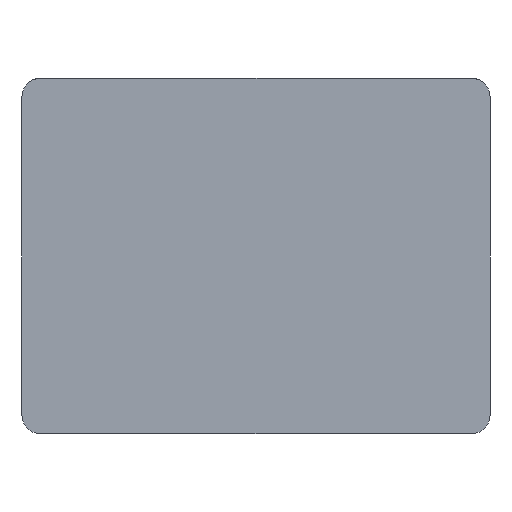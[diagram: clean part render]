
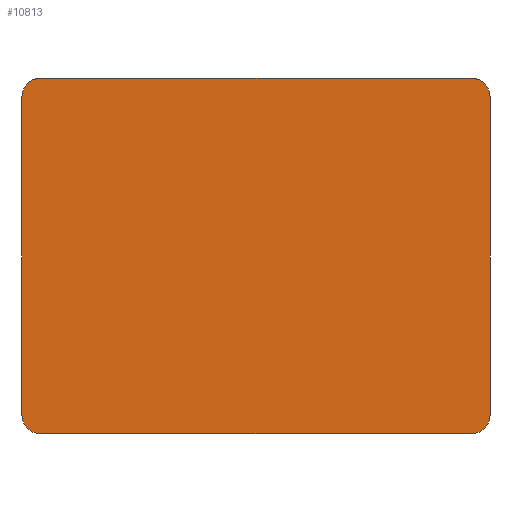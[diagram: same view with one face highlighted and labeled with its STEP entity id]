
A CAD part, left-side view. The second image highlights one B-rep face of the part: STEP entity #10813.
In plain terms, the highlighted planar face has unit normal (-1, 0, 0).
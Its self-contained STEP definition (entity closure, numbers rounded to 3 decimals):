
#1401=PLANE('',#11127);
#1968=FACE_OUTER_BOUND('',#2606,.T.);
#2606=EDGE_LOOP('',(#10013,#10014,#10015,#10016,#10017,#10018,#10019,#10020));
#3397=LINE('',#21919,#4182);
#3404=LINE('',#21961,#4189);
#3415=LINE('',#22003,#4200);
#3418=LINE('',#22012,#4203);
#4182=VECTOR('',#12333,10.);
#4189=VECTOR('',#12386,10.);
#4200=VECTOR('',#12437,10.);
#4203=VECTOR('',#12446,10.);
#4275=CIRCLE('',#11125,5.);
#4276=CIRCLE('',#11128,5.);
#4277=CIRCLE('',#11129,5.);
#4278=CIRCLE('',#11130,5.);
#5318=VERTEX_POINT('',#21913);
#5320=VERTEX_POINT('',#21917);
#5331=VERTEX_POINT('',#21958);
#5332=VERTEX_POINT('',#21960);
#5342=VERTEX_POINT('',#21998);
#5343=VERTEX_POINT('',#22002);
#5345=VERTEX_POINT('',#22009);
#5346=VERTEX_POINT('',#22011);
#6877=EDGE_CURVE('',#5320,#5318,#3397,.T.);
#6891=EDGE_CURVE('',#5331,#5332,#3404,.T.);
#6911=EDGE_CURVE('',#5332,#5342,#4275,.T.);
#6913=EDGE_CURVE('',#5342,#5343,#3415,.T.);
#6916=EDGE_CURVE('',#5318,#5331,#4276,.T.);
#6917=EDGE_CURVE('',#5345,#5320,#4277,.T.);
#6918=EDGE_CURVE('',#5346,#5345,#3418,.T.);
#6919=EDGE_CURVE('',#5343,#5346,#4278,.T.);
#10013=ORIENTED_EDGE('',*,*,#6911,.F.);
#10014=ORIENTED_EDGE('',*,*,#6891,.F.);
#10015=ORIENTED_EDGE('',*,*,#6916,.F.);
#10016=ORIENTED_EDGE('',*,*,#6877,.F.);
#10017=ORIENTED_EDGE('',*,*,#6917,.F.);
#10018=ORIENTED_EDGE('',*,*,#6918,.F.);
#10019=ORIENTED_EDGE('',*,*,#6919,.F.);
#10020=ORIENTED_EDGE('',*,*,#6913,.F.);
#10813=ADVANCED_FACE('',(#1968),#1401,.F.);
#11125=AXIS2_PLACEMENT_3D('',#21999,#12432,#12433);
#11127=AXIS2_PLACEMENT_3D('',#22007,#12440,#12441);
#11128=AXIS2_PLACEMENT_3D('',#22008,#12442,#12443);
#11129=AXIS2_PLACEMENT_3D('',#22010,#12444,#12445);
#11130=AXIS2_PLACEMENT_3D('',#22013,#12447,#12448);
#12333=DIRECTION('',(0.,0.,-1.));
#12386=DIRECTION('',(0.,1.,0.));
#12432=DIRECTION('center_axis',(1.,0.,0.));
#12433=DIRECTION('ref_axis',(0.,0.707,-0.707));
#12437=DIRECTION('',(0.,0.,1.));
#12440=DIRECTION('center_axis',(1.,0.,0.));
#12441=DIRECTION('ref_axis',(0.,1.,0.));
#12442=DIRECTION('center_axis',(1.,0.,0.));
#12443=DIRECTION('ref_axis',(0.,-0.707,-0.707));
#12444=DIRECTION('center_axis',(1.,0.,0.));
#12445=DIRECTION('ref_axis',(0.,-0.707,0.707));
#12446=DIRECTION('',(0.,-1.,0.));
#12447=DIRECTION('center_axis',(1.,0.,0.));
#12448=DIRECTION('ref_axis',(0.,0.707,0.707));
#21913=CARTESIAN_POINT('',(0.,0.,5.));
#21917=CARTESIAN_POINT('',(0.,0.,90.));
#21919=CARTESIAN_POINT('',(0.,0.,95.));
#21958=CARTESIAN_POINT('',(0.,5.,0.));
#21960=CARTESIAN_POINT('',(0.,120.,0.));
#21961=CARTESIAN_POINT('',(0.,0.,0.));
#21998=CARTESIAN_POINT('',(0.,125.,5.));
#21999=CARTESIAN_POINT('Origin',(0.,120.,5.));
#22002=CARTESIAN_POINT('',(0.,125.,90.));
#22003=CARTESIAN_POINT('',(0.,125.,0.));
#22007=CARTESIAN_POINT('Origin',(0.,62.5,47.5));
#22008=CARTESIAN_POINT('Origin',(0.,5.,5.));
#22009=CARTESIAN_POINT('',(0.,5.,95.));
#22010=CARTESIAN_POINT('Origin',(0.,5.,90.));
#22011=CARTESIAN_POINT('',(0.,120.,95.));
#22012=CARTESIAN_POINT('',(0.,125.,95.));
#22013=CARTESIAN_POINT('Origin',(0.,120.,90.));
